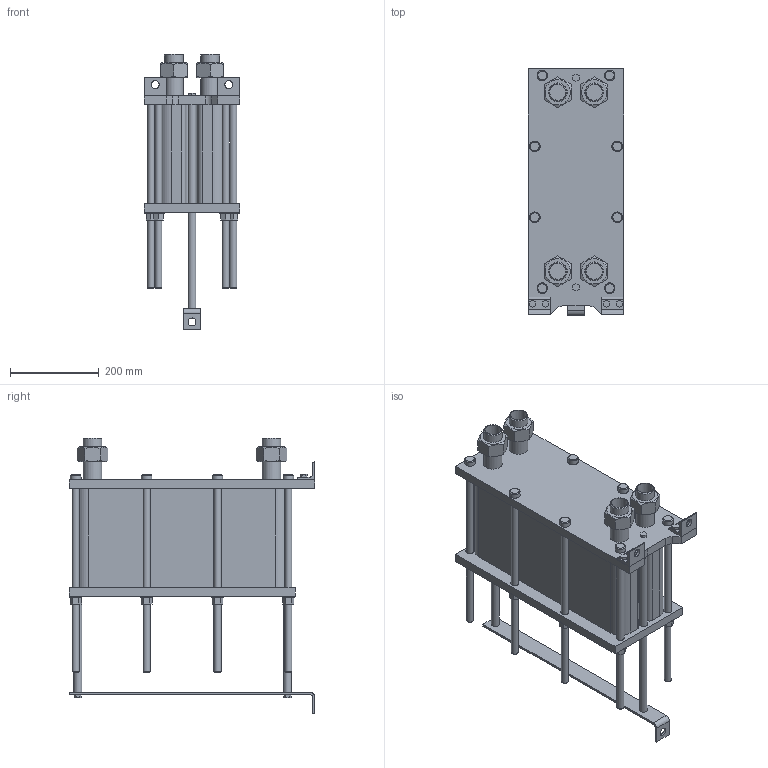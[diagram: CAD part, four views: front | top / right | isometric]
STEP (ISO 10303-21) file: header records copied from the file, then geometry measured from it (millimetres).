
FILE_DESCRIPTION(/* description */ (''),/* implementation_level */ '2;1');
FILE_NAME(/* name */ 'C:\Users\zhuro\Desktop\ENCO\TO\ЭН-004\ЭН-0,5-004-72-1.stp',/* time_stamp */ '2022-06-06T10:49:19+03:00',/* author */ ('zhuro'),/* organization */ (''),/* preprocessor_version */ 'ST-DEVELOPER v18.1',/* originating_system */ 'Autodesk Inventor 2022',/* authorisation */ '');
FILE_SCHEMA (('AUTOMOTIVE_DESIGN { 1 0 10303 214 3 1 1 }'));
Length unit declared in the file: millimetre
Products named in the file (1): ЭН-0,5-004-72-1
Bounding box: 216 x 555 x 622.6 mm (x, y, z)
Volume: 22395380.3 mm3; surface area: 1442120.5 mm2
Topology: 40 solids, 40 shells, 403 faces, 865 edges, 574 vertices
Faces by surface type: plane 272, cylinder 103, cone 28
Full cylindrical faces by diameter (mm): 10 x4, 16 x16, 18 x29, 20 x2, 24 x8, 28 x8, 36.3 x5, 42.3 x9
Entity records: 11137 total; most frequent: CARTESIAN_POINT 1939, DIRECTION 1879, ORIENTED_EDGE 1730, EDGE_CURVE 865, AXIS2_PLACEMENT_3D 658, VERTEX_POINT 574, LINE 563, VECTOR 563
